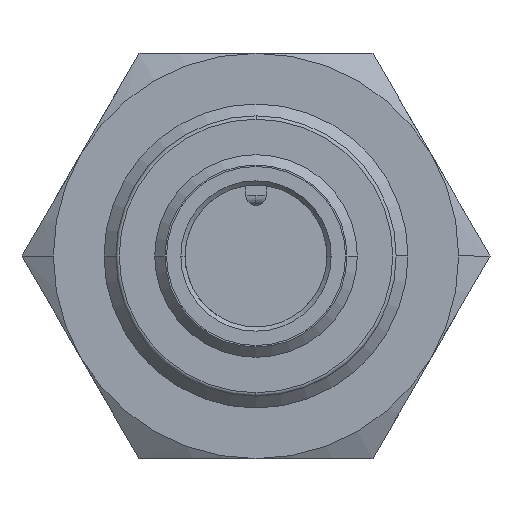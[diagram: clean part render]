
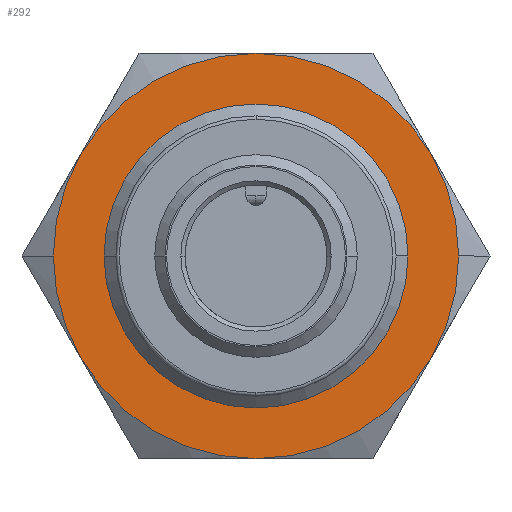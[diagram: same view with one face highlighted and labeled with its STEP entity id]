
A CAD part, left-side view. The second image highlights one B-rep face of the part: STEP entity #292.
In plain terms, the highlighted planar face has unit normal (-1, 0, 0).
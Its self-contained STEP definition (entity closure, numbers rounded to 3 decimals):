
#292 = ADVANCED_FACE( '', ( #545, #546 ), #547, .T. );
#545 = FACE_BOUND( '', #799, .T. );
#546 = FACE_OUTER_BOUND( '', #800, .T. );
#547 = PLANE( '', #801 );
#799 = EDGE_LOOP( '', ( #1703, #1704 ) );
#800 = EDGE_LOOP( '', ( #1705, #1706, #1707, #1708, #1709, #1710, #1711, #1712 ) );
#801 = AXIS2_PLACEMENT_3D( '', #1713, #1714, #1715 );
#1703 = ORIENTED_EDGE( '', *, *, #1951, .T. );
#1704 = ORIENTED_EDGE( '', *, *, #1939, .T. );
#1705 = ORIENTED_EDGE( '', *, *, #1989, .T. );
#1706 = ORIENTED_EDGE( '', *, *, #1928, .T. );
#1707 = ORIENTED_EDGE( '', *, *, #1984, .T. );
#1708 = ORIENTED_EDGE( '', *, *, #1985, .T. );
#1709 = ORIENTED_EDGE( '', *, *, #1930, .T. );
#1710 = ORIENTED_EDGE( '', *, *, #1986, .T. );
#1711 = ORIENTED_EDGE( '', *, *, #1987, .T. );
#1712 = ORIENTED_EDGE( '', *, *, #1988, .T. );
#1713 = CARTESIAN_POINT( '', ( 26., 6., 0. ) );
#1714 = DIRECTION( '', ( -1., 0., 0. ) );
#1715 = DIRECTION( '', ( 0., 1., 0. ) );
#1928 = EDGE_CURVE( '', #2329, #2331, #2333, .T. );
#1930 = EDGE_CURVE( '', #2337, #2334, #2338, .T. );
#1939 = EDGE_CURVE( '', #2355, #2352, #2356, .T. );
#1951 = EDGE_CURVE( '', #2352, #2355, #2373, .T. );
#1984 = EDGE_CURVE( '', #2331, #2379, #2422, .T. );
#1985 = EDGE_CURVE( '', #2379, #2337, #2423, .T. );
#1986 = EDGE_CURVE( '', #2334, #2410, #2424, .T. );
#1987 = EDGE_CURVE( '', #2410, #2402, #2425, .T. );
#1988 = EDGE_CURVE( '', #2402, #2389, #2426, .T. );
#1989 = EDGE_CURVE( '', #2389, #2329, #2427, .T. );
#2329 = VERTEX_POINT( '', #3351 );
#2331 = VERTEX_POINT( '', #3354 );
#2333 = CIRCLE( '', #3365, 12. );
#2334 = VERTEX_POINT( '', #3366 );
#2337 = VERTEX_POINT( '', #3370 );
#2338 = CIRCLE( '', #3371, 12. );
#2352 = VERTEX_POINT( '', #3414 );
#2355 = VERTEX_POINT( '', #3418 );
#2356 = CIRCLE( '', #3419, 9. );
#2373 = CIRCLE( '', #3441, 9. );
#2379 = VERTEX_POINT( '', #3457 );
#2389 = VERTEX_POINT( '', #3505 );
#2402 = VERTEX_POINT( '', #3582 );
#2410 = VERTEX_POINT( '', #3627 );
#2422 = CIRCLE( '', #3676, 12. );
#2423 = CIRCLE( '', #3677, 12. );
#2424 = CIRCLE( '', #3678, 12. );
#2425 = CIRCLE( '', #3679, 12. );
#2426 = CIRCLE( '', #3680, 12. );
#2427 = CIRCLE( '', #3681, 12. );
#3351 = CARTESIAN_POINT( '', ( 26., 12., 0. ) );
#3354 = CARTESIAN_POINT( '', ( 26., 10.392, -6. ) );
#3365 = AXIS2_PLACEMENT_3D( '', #4051, #4052, #4053 );
#3366 = CARTESIAN_POINT( '', ( 26., -12., 0. ) );
#3370 = CARTESIAN_POINT( '', ( 26., -10.392, -6. ) );
#3371 = AXIS2_PLACEMENT_3D( '', #4055, #4056, #4057 );
#3414 = CARTESIAN_POINT( '', ( 26., 9., 0. ) );
#3418 = CARTESIAN_POINT( '', ( 26., -9., 0. ) );
#3419 = AXIS2_PLACEMENT_3D( '', #4067, #4068, #4069 );
#3441 = AXIS2_PLACEMENT_3D( '', #4093, #4094, #4095 );
#3457 = CARTESIAN_POINT( '', ( 26., 0., -12. ) );
#3505 = CARTESIAN_POINT( '', ( 26., 10.392, 6. ) );
#3582 = CARTESIAN_POINT( '', ( 26., 0., 12. ) );
#3627 = CARTESIAN_POINT( '', ( 26., -10.392, 6. ) );
#3676 = AXIS2_PLACEMENT_3D( '', #4120, #4121, #4122 );
#3677 = AXIS2_PLACEMENT_3D( '', #4123, #4124, #4125 );
#3678 = AXIS2_PLACEMENT_3D( '', #4126, #4127, #4128 );
#3679 = AXIS2_PLACEMENT_3D( '', #4129, #4130, #4131 );
#3680 = AXIS2_PLACEMENT_3D( '', #4132, #4133, #4134 );
#3681 = AXIS2_PLACEMENT_3D( '', #4135, #4136, #4137 );
#4051 = CARTESIAN_POINT( '', ( 26., 0., 0. ) );
#4052 = DIRECTION( '', ( -1., 0., 0. ) );
#4053 = DIRECTION( '', ( 0., 1., 0. ) );
#4055 = CARTESIAN_POINT( '', ( 26., 0., 0. ) );
#4056 = DIRECTION( '', ( -1., 0., 0. ) );
#4057 = DIRECTION( '', ( 0., 1., 0. ) );
#4067 = CARTESIAN_POINT( '', ( 26., 0., 0. ) );
#4068 = DIRECTION( '', ( 1., 0., 0. ) );
#4069 = DIRECTION( '', ( 0., 1., 0. ) );
#4093 = CARTESIAN_POINT( '', ( 26., 0., 0. ) );
#4094 = DIRECTION( '', ( 1., 0., 0. ) );
#4095 = DIRECTION( '', ( 0., 1., 0. ) );
#4120 = CARTESIAN_POINT( '', ( 26., 0., 0. ) );
#4121 = DIRECTION( '', ( -1., 0., 0. ) );
#4122 = DIRECTION( '', ( 0., 1., 0. ) );
#4123 = CARTESIAN_POINT( '', ( 26., 0., 0. ) );
#4124 = DIRECTION( '', ( -1., 0., 0. ) );
#4125 = DIRECTION( '', ( 0., 1., 0. ) );
#4126 = CARTESIAN_POINT( '', ( 26., 0., 0. ) );
#4127 = DIRECTION( '', ( -1., 0., 0. ) );
#4128 = DIRECTION( '', ( 0., 1., 0. ) );
#4129 = CARTESIAN_POINT( '', ( 26., 0., 0. ) );
#4130 = DIRECTION( '', ( -1., 0., 0. ) );
#4131 = DIRECTION( '', ( 0., 1., 0. ) );
#4132 = CARTESIAN_POINT( '', ( 26., 0., 0. ) );
#4133 = DIRECTION( '', ( -1., 0., 0. ) );
#4134 = DIRECTION( '', ( 0., 1., 0. ) );
#4135 = CARTESIAN_POINT( '', ( 26., 0., 0. ) );
#4136 = DIRECTION( '', ( -1., 0., 0. ) );
#4137 = DIRECTION( '', ( 0., 1., 0. ) );
